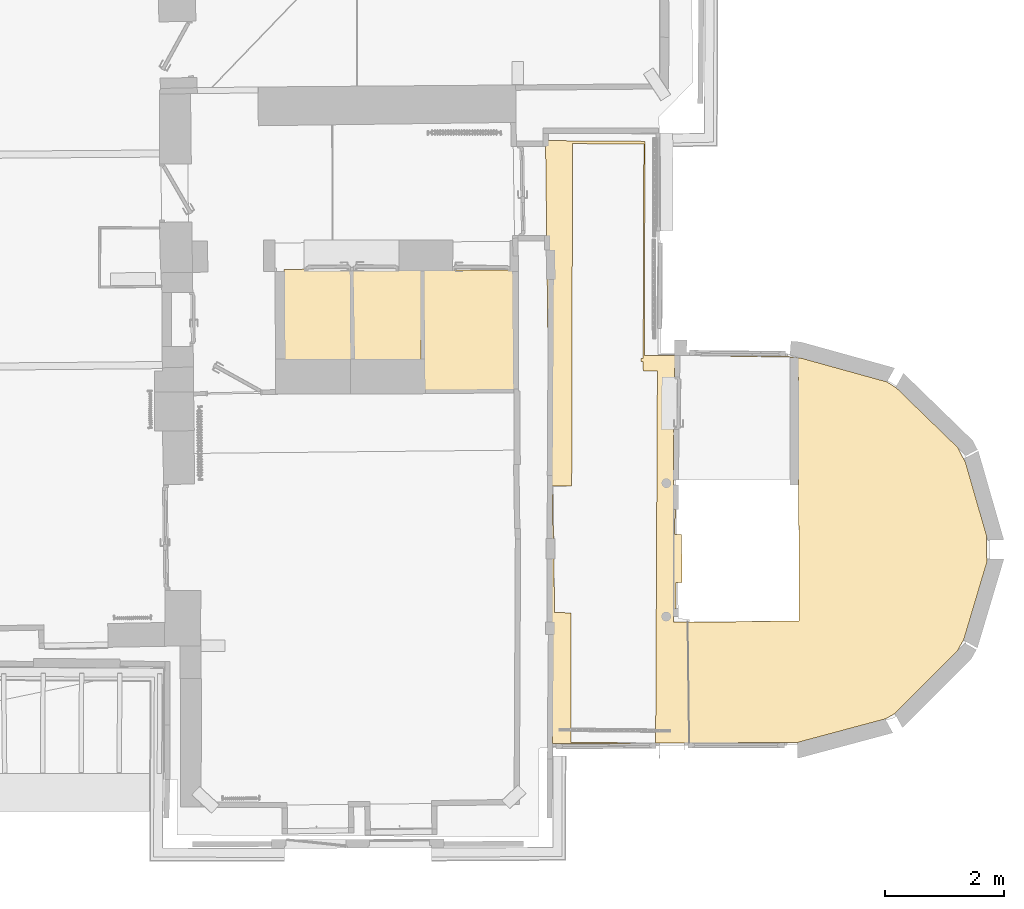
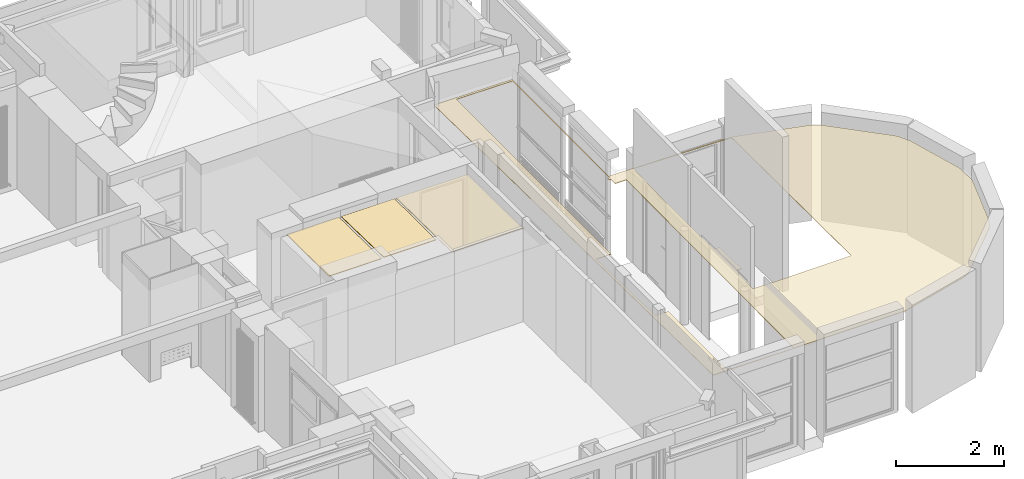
# One storey, part 69 of 72: 4 coverings.
"""IFC2X3 building model written with IfcOpenShell, lengths in centimetres."""

import ifcopenshell
import ifcopenshell.guid

model = None  # the IFC model being written
_history = None  # IfcOwnerHistory: only IFC2X3 demands one
_inside = {}  # id of a spatial element -> (the spatial element, [elements in it])
_under = {}  # id of a project, library or spatial element -> (it, [spatial elements below it])
_declared = {}  # id of a project -> (the project, [libraries it declares])
_typed = {}  # id of a type object -> (the type object, [elements of that type])
_made_of = {}  # id of a material, layer set ... -> (it, [elements and type objects made of it])


def new_model(schema):
    """Start an empty IFC model of exactly this schema.

    Asked for "IFC4X3", IfcOpenShell would pick the latest addendum, in which some entities
    have other attributes; the version numbers below select the first issue.
    IFC2X3 requires an IfcOwnerHistory on every rooted entity: one is made here for all.
    """
    global model, _history
    if schema == "IFC4X3":
        model = ifcopenshell.file(schema_version=(4, 3, 0, 0))
    else:
        model = ifcopenshell.file(schema=schema)
    _inside.clear()
    _under.clear()
    _declared.clear()
    _typed.clear()
    _made_of.clear()
    _history = None
    if model.schema == "IFC2X3":
        org = make("IfcOrganization", Name="unknown")
        user = make(
            "IfcPersonAndOrganization",
            ThePerson=make("IfcPerson", FamilyName="unknown"),
            TheOrganization=org,
        )
        app = make(
            "IfcApplication",
            ApplicationDeveloper=org,
            Version="unknown",
            ApplicationFullName="unknown",
            ApplicationIdentifier="unknown",
        )
        _history = make(
            "IfcOwnerHistory",
            OwningUser=user,
            OwningApplication=app,
            ChangeAction="ADDED",
            CreationDate=0,
        )
    return model


def make(cls, **values):
    """One entity of the class cls with the attributes given. An attribute that is None is left unset."""
    return model.create_entity(
        cls, **{name: value for name, value in values.items() if value is not None}
    )


def entity(cls, *values):
    """Any entity or typed value of the class cls, its attributes in the order of the schema. None: left unset."""
    e = model.create_entity(cls)
    for i, value in enumerate(values):
        if value is not None:
            e[i] = value
    return e


def rooted(cls, **values):
    """An entity with a GlobalId (a new one), such as an element, a storey or a relation."""
    return make(cls, GlobalId=ifcopenshell.guid.new(), OwnerHistory=_history, **values)


def si_unit(unit_type, name, prefix=None):
    """IfcSIUnit, for example si_unit("LENGTHUNIT", "METRE", prefix="MILLI")."""
    return make("IfcSIUnit", UnitType=unit_type, Prefix=prefix, Name=name)


def converted_unit(unit_type, name, factor, base, dimensions=None, offset=None):
    """IfcConversionBasedUnit, such as the inch: factor (a typed value) times the base unit."""
    return make(
        "IfcConversionBasedUnit"
        if offset is None
        else "IfcConversionBasedUnitWithOffset",
        ConversionOffset=offset,
        Dimensions=None
        if dimensions is None
        else entity("IfcDimensionalExponents", *dimensions),
        UnitType=unit_type,
        Name=name,
        ConversionFactor=make(
            "IfcMeasureWithUnit", ValueComponent=factor, UnitComponent=base
        ),
    )


def assignment(units):
    """IfcUnitAssignment: the units of a project."""
    return None if units is None else make("IfcUnitAssignment", Units=units)


def point(xyz):
    """IfcCartesianPoint."""
    return None if xyz is None else make("IfcCartesianPoint", Coordinates=xyz)


def direction(xyz):
    """IfcDirection."""
    return None if xyz is None else make("IfcDirection", DirectionRatios=xyz)


def frame(location, z_axis=None, x_axis=None):
    """IfcAxis2Placement3D, a coordinate frame: its origin and axes. An axis left out is left unset."""
    return make(
        "IfcAxis2Placement3D",
        Location=point(location),
        Axis=direction(z_axis),
        RefDirection=direction(x_axis),
    )


def origin():
    """The frame at (0, 0, 0) with its axes left unset."""
    return frame((0.0, 0.0, 0.0))


def origin_with_axes():
    """The frame at (0, 0, 0) with the z axis (0, 0, 1) and the x axis (1, 0, 0) written out."""
    return frame((0.0, 0.0, 0.0), z_axis=(0.0, 0.0, 1.0), x_axis=(1.0, 0.0, 0.0))


def place(relative_to, where):
    """IfcLocalPlacement: puts the frame where relative to a parent placement (None: the world)."""
    return make(
        "IfcLocalPlacement", PlacementRelTo=relative_to, RelativePlacement=where
    )


def context(
    kind, dimensions, precision=None, world=None, true_north=None, identifier=None
):
    """IfcGeometricRepresentationContext, for example the 3D "Model" context."""
    return make(
        "IfcGeometricRepresentationContext",
        ContextIdentifier=identifier,
        ContextType=kind,
        CoordinateSpaceDimension=dimensions,
        Precision=precision,
        WorldCoordinateSystem=world,
        TrueNorth=true_north,
    )


def subcontext(parent, identifier, kind, view, scale=None):
    """IfcGeometricRepresentationSubContext, for example "Body" below "Model"."""
    return make(
        "IfcGeometricRepresentationSubContext",
        ContextIdentifier=identifier,
        ContextType=kind,
        ParentContext=parent,
        TargetScale=scale,
        TargetView=view,
    )


def project(units=None, contexts=None):
    """IfcProject with its units and contexts."""
    return rooted(
        "IfcProject",
        Name="project",
        RepresentationContexts=contexts,
        UnitsInContext=assignment(units),
    )


def spatial(cls, under=None, at=None, **own):
    """A site, building, storey or space (cls), placed at a placement, below another one or the project."""
    s = rooted(cls, ObjectPlacement=at, **own)
    if under is not None:
        _under.setdefault(under.id(), (under, []))[1].append(s)
    return s


def faces_of(points, faces, orient=None, outer=None):
    """IfcFace entities. A face is a list of loops; a loop is a list of indices into points, from 0.

    orient and outer hold one flag for each loop. By default every Orientation is true, the
    first loop of a face is its IfcFaceOuterBound and the others are IfcFaceBound.
    """
    made = []
    for i, loops in enumerate(faces):
        bounds = []
        for j, loop in enumerate(loops):
            is_outer = j == 0 if outer is None else outer[i][j]
            bounds.append(
                make(
                    "IfcFaceOuterBound" if is_outer else "IfcFaceBound",
                    Bound=make("IfcPolyLoop", Polygon=[points[k] for k in loop]),
                    Orientation=True if orient is None else orient[i][j],
                )
            )
        made.append(make("IfcFace", Bounds=bounds))
    return made


def faceted_brep(points, faces, orient=None, outer=None, voids=None):
    """IfcFacetedBrep: a solid bounded by flat faces; with voids (closed shells), ...WithVoids."""
    shared = [point(p) for p in points]
    hull = make("IfcClosedShell", CfsFaces=faces_of(shared, faces, orient, outer))
    if voids is None:
        return make("IfcFacetedBrep", Outer=hull)
    return make(
        "IfcFacetedBrepWithVoids",
        Outer=hull,
        Voids=[
            make(cls, CfsFaces=faces_of(shared, fs, o, b)) for cls, fs, o, b in voids
        ],
    )


def shape(context_of_items, identifier, shape_type, items):
    """IfcShapeRepresentation: the items that make up one representation, for example the "Body"."""
    return make(
        "IfcShapeRepresentation",
        ContextOfItems=context_of_items,
        RepresentationIdentifier=identifier,
        RepresentationType=shape_type,
        Items=items,
    )


def material(Name=None, Category=None):
    """IfcMaterial."""
    return make("IfcMaterial", Name=Name, Category=Category)


def made_of(thing, what):
    """Note that an element or type object is made of a material, layer set ...; save() writes the relation."""
    if what is not None:
        _made_of.setdefault(what.id(), (what, []))[1].append(thing)
    return thing


def element(
    cls,
    number,
    at=None,
    inside=None,
    cuts=None,
    type_object=None,
    material=None,
    context=None,
    identifier="Body",
    shape_type=None,
    held_by="IfcProductDefinitionShape",
    body=None,
    shapes=None,
    **own,
):
    """One element of the class cls, such as IfcWall. Its Tag is "e" and its number.

    at: its placement. inside: the storey or other place that contains it. cuts: it is an
    opening in that element (IfcRelVoidsElement). A single representation is given by context,
    identifier, shape_type and body (its items); several are given by shapes. held_by: the class
    of the entity that holds the representations. save() writes the other relations.
    """
    e = rooted(cls, Tag="e%d" % number, ObjectPlacement=at, **own)
    if body is not None:
        shapes = [shape(context, identifier, shape_type, body)]
    if shapes is not None:
        e.Representation = make(held_by, Representations=shapes)
    if inside is not None:
        _inside.setdefault(inside.id(), (inside, []))[1].append(e)
    if cuts is not None:
        rooted(
            "IfcRelVoidsElement", RelatingBuildingElement=cuts, RelatedOpeningElement=e
        )
    if type_object is not None:
        _typed.setdefault(type_object.id(), (type_object, []))[1].append(e)
    return made_of(e, material)


def aggregate(whole, parts):
    """IfcRelAggregates: a whole, such as a stair, and the parts it consists of."""
    return rooted("IfcRelAggregates", RelatingObject=whole, RelatedObjects=parts)


def save(model, path):
    """Write the relations noted so far, then the file.

    IfcRelAggregates (storeys below a building ...), IfcRelContainedInSpatialStructure (elements
    in a storey), IfcRelDefinesByType, IfcRelAssociatesMaterial and IfcRelDeclares: one each for
    every whole, place, type object, material and project.
    """
    for whole, parts in _under.values():
        aggregate(whole, parts)
    for where, things in _inside.values():
        rooted(
            "IfcRelContainedInSpatialStructure",
            RelatedElements=things,
            RelatingStructure=where,
        )
    for kind, things in _typed.values():
        rooted("IfcRelDefinesByType", RelatedObjects=things, RelatingType=kind)
    for what, things in _made_of.values():
        rooted("IfcRelAssociatesMaterial", RelatedObjects=things, RelatingMaterial=what)
    for by, libraries in _declared.values():
        rooted("IfcRelDeclares", RelatingContext=by, RelatedDefinitions=libraries)
    model.write(path)


model = new_model("IFC2X3")

# Units and contexts
model_context = context("Model", 3, precision=0.0001, world=origin(), true_north=direction((0.225632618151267, 0.974212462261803, 0.0)))
body_context = subcontext(model_context, "Body", "Model", "MODEL_VIEW")
ifc_project = project(units=[si_unit("LENGTHUNIT", "METRE", prefix="CENTI"), si_unit("AREAUNIT", "SQUARE_METRE", prefix="CENTI"), si_unit("VOLUMEUNIT", "CUBIC_METRE", prefix="CENTI"), converted_unit("PLANEANGLEUNIT", "DEGREE", entity("IfcRatioMeasure", 0.0174532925), si_unit("PLANEANGLEUNIT", "RADIAN"), dimensions=[0, 0, 0, 0, 0, 0, 0])], contexts=[model_context])

# Site, building, storey
site_placement = place(None, origin_with_axes())
site = spatial("IfcSite", under=ifc_project, at=site_placement, Name="Default Site", CompositionType="ELEMENT")
building_placement = place(site_placement, origin_with_axes())
building = spatial("IfcBuilding", under=site, at=building_placement, Name="Default Building", CompositionType="ELEMENT")
storey_placement = place(building_placement, frame((0.0, 0.0, 853.910374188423), z_axis=(0.0, 0.0, 1.0), x_axis=(1.0, 0.0, 0.0)))
storey = spatial("IfcBuildingStorey", under=building, at=storey_placement, Name="Niveau 2", CompositionType="ELEMENT", Elevation=853.910374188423)

# Coverings
ifc_material = material(Name="Blanc")
covering_1_placement = place(storey_placement, frame((673.028166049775, -78.1284152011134, 208.5), z_axis=(0.0, 0.0, 1.0), x_axis=(1.0, 0.0, 0.0)))
element("IfcCovering", 1, at=covering_1_placement, inside=storey, material=ifc_material, Name="Faux-plafond 152115", PredefinedType="CEILING", context=body_context, shape_type="Brep", body=[
    faceted_brep([(-111.590559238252, -153.608483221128, 1.39997432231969), (0.544421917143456, -153.172320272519, 1.39997432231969), (1.69336229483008e-05, -1.45032252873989e-07, 1.39997432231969), (-114.04693817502, -0.405347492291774, 1.39997432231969), (-114.04693817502, -0.405347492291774, -1.95741646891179e-05), (1.69336229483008e-05, -1.45032252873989e-07, -1.95741646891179e-05), (0.544421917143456, -153.172320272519, -1.95741646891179e-05), (-111.590559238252, -153.608483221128, -1.95741646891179e-05), (0.544421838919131, -153.172300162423, -1.95741646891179e-05), (0.544421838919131, -153.172300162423, 1.39997432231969), (1.45144837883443e-05, -1.53630394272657e-07, -1.95741646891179e-05), (1.45144837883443e-05, -1.53630394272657e-07, 1.39997432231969), (-114.046938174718, -0.405347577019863, -1.95741646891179e-05), (-114.046938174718, -0.405347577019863, 1.39997432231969), (-111.590568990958, -153.608483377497, -1.95741646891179e-05), (-111.590568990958, -153.608483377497, 1.39997432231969)], [[[0, 1, 2, 3]], [[4, 5, 6, 7]], [[7, 8, 9, 0]], [[6, 10, 11, 1]], [[5, 12, 13, 2]], [[4, 14, 15, 3]]]),
])
covering_2_placement = place(storey_placement, frame((442.934560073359, -77.0907388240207, 207.5), z_axis=(0.0, 0.0, 1.0), x_axis=(1.0, 0.0, 0.0)))
element("IfcCovering", 2, at=covering_2_placement, inside=storey, material=ifc_material, Name="Faux-plafond 152116", PredefinedType="CEILING", context=body_context, shape_type="Brep", body=[
    faceted_brep([(0.831127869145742, -155.84473747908, 1.40004680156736), (113.694239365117, -155.067159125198, 1.40004680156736), (112.036944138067, 1.05601411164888, 1.40004680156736), (7.0239769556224e-07, -1.37983671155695e-06, 1.40004680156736), (7.0239769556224e-07, -1.37983671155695e-06, -4.24623486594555e-05), (112.036944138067, 1.05601411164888, -4.24623486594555e-05), (113.694239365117, -155.067159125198, -4.24623486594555e-05), (0.831127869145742, -155.84473747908, -4.24623486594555e-05), (113.694239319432, -155.067152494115, -4.24623486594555e-05), (113.694239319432, -155.067152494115, 1.40004680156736), (112.036932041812, 1.05601398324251, -4.24623486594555e-05), (112.036932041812, 1.05601398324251, 1.40004680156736), (7.1492111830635e-07, -2.70849547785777e-06, -4.24623486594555e-05), (7.1492111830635e-07, -2.70849547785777e-06, 1.40004680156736), (0.831105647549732, -155.844737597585, -4.24623486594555e-05), (0.831105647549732, -155.844737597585, 1.40004680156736)], [[[0, 1, 2, 3]], [[4, 5, 6, 7]], [[7, 8, 9, 0]], [[6, 10, 11, 1]], [[5, 12, 13, 2]], [[4, 14, 15, 3]]]),
])
covering_3_placement = place(storey_placement, frame((676.31466121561, -78.0516798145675, 209.0), z_axis=(0.0, 0.0, 1.0), x_axis=(1.0, 0.0, 0.0)))
element("IfcCovering", 3, at=covering_3_placement, inside=storey, material=ifc_material, Name="Faux-plafond 152117", PredefinedType="CEILING", context=body_context, shape_type="Brep", body=[
    faceted_brep([(2.17654972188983, -203.303820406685, 1.39998576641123), (155.512693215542, -202.423459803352, 1.39998576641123), (154.299524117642, -0.0562136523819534, 1.39998576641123), (-2.11704441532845e-05, -5.11894282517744e-07, 1.39998576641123), (-2.11704441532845e-05, -5.11894282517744e-07, -8.13007314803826e-06), (154.299524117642, -0.0562136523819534, -8.13007314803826e-06), (155.512693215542, -202.423459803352, -8.13007314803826e-06), (2.17654972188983, -203.303820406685, -8.13007314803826e-06), (155.512693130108, -202.423444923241, -8.13007314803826e-06), (155.512693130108, -202.423444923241, 1.39998576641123), (154.299488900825, -0.0562138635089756, -8.13007314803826e-06), (154.299488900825, -0.0562138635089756, 1.39998576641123), (-2.11696250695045e-05, 1.73632026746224e-06, -8.13007314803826e-06), (-2.11696250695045e-05, 1.73632026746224e-06, 1.39998576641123), (2.17652633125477, -203.303820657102, -8.13007314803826e-06), (2.17652633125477, -203.303820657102, 1.39998576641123)], [[[0, 1, 2, 3]], [[4, 5, 6, 7]], [[7, 8, 9, 0]], [[6, 10, 11, 1]], [[5, 12, 13, 2]], [[4, 14, 15, 3]]]),
])
covering_4_placement = place(storey_placement, frame((882.630722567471, 139.41985003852, 215.0), z_axis=(0.0, 0.0, 1.0), x_axis=(1.0, 0.0, 0.0)))
element("IfcCovering", 4, at=covering_4_placement, inside=storey, material=ifc_material, Name="Faux-plafond 564891", PredefinedType="CEILING", context=body_context, shape_type="Brep", body=[
    faceted_brep([(12.0212626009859, -1013.63049380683, 1.40002772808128), (423.485095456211, -1011.61299579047, 1.40002772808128), (570.876605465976, -972.094353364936, 1.40002772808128), (587.059981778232, -963.199337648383, 1.40002772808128), (692.186458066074, -857.68042437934, 1.40002772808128), (703.096492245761, -838.406428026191, 1.40002772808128), (741.694838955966, -708.982142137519, 1.40002772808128), (741.205985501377, -663.725050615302, 1.40002772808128), (706.01969476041, -541.407927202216, 1.40002772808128), (692.694957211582, -515.768011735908, 1.40002772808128), (590.160663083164, -416.137322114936, 1.40002772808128), (573.87858147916, -405.594810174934, 1.40002772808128), (431.159408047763, -366.067823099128, 1.40002772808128), (406.615931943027, -362.848027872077, 1.40002772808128), (166.047007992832, -360.980328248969, 1.40002772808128), (167.210395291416, -1.12357966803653, 1.40002772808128), (7.10782188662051e-06, 3.64876644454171e-06, 1.40002772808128), (424.671943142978, -366.558369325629, 1.40002772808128), (426.155669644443, -807.194098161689, 1.40002772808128), (270.668227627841, -809.431656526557, 1.40002772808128), (214.779288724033, -808.799847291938, 1.40002772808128), (214.695556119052, -792.816408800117, 1.40002772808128), (217.942531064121, -792.671354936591, 1.40002772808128), (217.848784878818, -786.702688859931, 1.40002772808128), (219.45210213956, -786.688955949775, 1.40002772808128), (219.27538628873, -742.75966517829, 1.40002772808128), (229.411704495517, -742.478521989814, 1.40002772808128), (228.649909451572, -662.378414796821, 1.40002772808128), (217.868525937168, -662.444409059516, 1.40002772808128), (218.126494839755, -619.740017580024, 1.40002772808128), (216.117675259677, -619.727333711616, 1.40002772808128), (216.062838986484, -613.385828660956, 1.40002772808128), (215.127189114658, -613.03292148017, 1.40002772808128), (215.522963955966, -490.776618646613, 1.40002772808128), (214.846332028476, -489.490255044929, 1.40002772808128), (217.616565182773, -362.312635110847, 1.40002772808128), (43.140418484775, -1011.27491824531, 1.40002772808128), (42.9309916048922, -794.070967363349, 1.40002772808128), (15.3322290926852, -792.757233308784, 1.40002772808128), (11.8973803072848, -580.840738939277, 1.40002772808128), (44.0117907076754, -580.918368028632, 1.40002772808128), (45.4035830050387, -5.14400832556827, 1.40002772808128), (165.195281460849, -5.80246083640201, 1.40002772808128), (164.031321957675, -365.84692828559, 1.40002772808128), (160.253722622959, -365.922554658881, 1.40002772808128), (160.128314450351, -371.461185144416, 1.40002772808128), (163.847644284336, -371.545418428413, 1.40002772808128), (164.320094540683, -387.081011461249, 1.40002772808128), (187.965400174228, -387.044390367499, 1.40002772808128), (185.038859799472, -1012.78210513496, 1.40002772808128), (7.10782188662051e-06, 3.64876644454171e-06, 3.38315969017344e-05), (167.210395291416, -1.12357966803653, 3.38315969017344e-05), (166.047007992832, -360.980328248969, 3.38315969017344e-05), (406.615931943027, -362.848027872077, 3.38315969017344e-05), (431.159408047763, -366.067823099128, 3.38315969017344e-05), (573.87858147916, -405.594810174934, 3.38315969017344e-05), (590.160663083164, -416.137322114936, 3.38315969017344e-05), (692.694957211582, -515.768011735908, 3.38315969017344e-05), (706.01969476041, -541.407927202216, 3.38315969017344e-05), (741.205985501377, -663.725050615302, 3.38315969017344e-05), (741.694838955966, -708.982142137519, 3.38315969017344e-05), (703.096492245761, -838.406428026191, 3.38315969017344e-05), (692.186458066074, -857.68042437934, 3.38315969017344e-05), (587.059981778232, -963.199337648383, 3.38315969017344e-05), (570.876605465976, -972.094353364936, 3.38315969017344e-05), (423.485095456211, -1011.61299579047, 3.38315969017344e-05), (12.0212626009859, -1013.63049380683, 3.38315969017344e-05), (217.616565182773, -362.312635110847, 3.38315969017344e-05), (214.846332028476, -489.490255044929, 3.38315969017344e-05), (215.522963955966, -490.776618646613, 3.38315969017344e-05), (215.127189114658, -613.03292148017, 3.38315969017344e-05), (216.062838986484, -613.385828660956, 3.38315969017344e-05), (216.117675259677, -619.727333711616, 3.38315969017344e-05), (218.126494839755, -619.740017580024, 3.38315969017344e-05), (217.868525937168, -662.444409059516, 3.38315969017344e-05), (228.649909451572, -662.378414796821, 3.38315969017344e-05), (229.411704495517, -742.478521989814, 3.38315969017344e-05), (219.27538628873, -742.75966517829, 3.38315969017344e-05), (219.45210213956, -786.688955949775, 3.38315969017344e-05), (217.848784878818, -786.702688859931, 3.38315969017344e-05), (217.942531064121, -792.671354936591, 3.38315969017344e-05), (214.695556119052, -792.816408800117, 3.38315969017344e-05), (214.779288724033, -808.799847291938, 3.38315969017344e-05), (270.668227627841, -809.431656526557, 3.38315969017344e-05), (426.155669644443, -807.194098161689, 3.38315969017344e-05), (424.671943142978, -366.558369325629, 3.38315969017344e-05), (185.038859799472, -1012.78210513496, 3.38315969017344e-05), (187.965400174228, -387.044390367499, 3.38315969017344e-05), (164.320094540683, -387.081011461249, 3.38315969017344e-05), (163.847644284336, -371.545418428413, 3.38315969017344e-05), (160.128314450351, -371.461185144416, 3.38315969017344e-05), (160.253722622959, -365.922554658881, 3.38315969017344e-05), (164.031321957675, -365.84692828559, 3.38315969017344e-05), (165.195281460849, -5.80246083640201, 3.38315969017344e-05), (45.4035830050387, -5.14400832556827, 3.38315969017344e-05), (44.0117907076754, -580.918368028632, 3.38315969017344e-05), (11.8973803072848, -580.840738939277, 3.38315969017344e-05), (15.3322290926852, -792.757233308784, 3.38315969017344e-05), (42.9309916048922, -794.070967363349, 3.38315969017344e-05), (43.140418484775, -1011.27491824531, 3.38315969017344e-05), (423.485095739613, -1011.61305359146, 3.38315969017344e-05), (423.485095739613, -1011.61305359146, 1.40002772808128), (570.876594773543, -972.094313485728, 3.38315969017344e-05), (570.876594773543, -972.094313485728, 1.40002772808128), (587.059977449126, -963.199329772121, 3.38315969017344e-05), (587.059977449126, -963.199329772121, 1.40002772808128), (692.186440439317, -857.680406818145, 3.38315969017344e-05), (692.186440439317, -857.680406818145, 1.40002772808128), (703.096499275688, -838.40643200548, 3.38315969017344e-05), (703.096499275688, -838.40643200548, 1.40002772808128), (741.694880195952, -708.982154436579, 3.38315969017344e-05), (741.694880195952, -708.982154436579, 1.40002772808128), (741.205904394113, -663.725051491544, 3.38315969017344e-05), (741.205904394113, -663.725051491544, 1.40002772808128), (706.01971924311, -541.407920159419, 3.38315969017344e-05), (706.01971924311, -541.407920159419, 1.40002772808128), (692.69500436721, -515.767987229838, 3.38315969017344e-05), (692.69500436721, -515.767987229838, 1.40002772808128), (590.160662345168, -416.13732287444, 3.38315969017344e-05), (590.160662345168, -416.13732287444, 1.40002772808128), (573.87856641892, -405.594833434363, 3.38315969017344e-05), (573.87856641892, -405.594833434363, 1.40002772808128), (431.159409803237, -366.067816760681, 3.38315969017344e-05), (431.159409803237, -366.067816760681, 1.40002772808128), (406.615931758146, -362.848029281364, 3.38315969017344e-05), (406.615931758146, -362.848029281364, 1.40002772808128), (166.047008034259, -360.980322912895, 3.38315969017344e-05), (166.047008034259, -360.980322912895, 1.40002772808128), (167.210418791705, -1.12357974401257, 3.38315969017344e-05), (167.210418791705, -1.12357974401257, 1.40002772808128), (7.11367749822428e-06, 4.52019121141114e-06, 3.38315969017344e-05), (7.11367749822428e-06, 4.52019121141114e-06, 1.40002772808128), (12.0212943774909, -1013.63049342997, 3.38315969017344e-05), (12.0212943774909, -1013.63049342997, 1.40002772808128), (214.84628673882, -489.490254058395, 1.40002772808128), (214.84628673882, -489.490254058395, 3.38315969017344e-05), (215.522990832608, -490.776604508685, 1.40002772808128), (215.522990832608, -490.776604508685, 3.38315969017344e-05), (215.127201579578, -613.032921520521, 1.40002772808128), (215.127201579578, -613.032921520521, 3.38315969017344e-05), (216.062827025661, -613.385860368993, 1.40002772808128), (216.062827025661, -613.385860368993, 3.38315969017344e-05), (216.11761253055, -619.727334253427, 1.40002772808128), (216.11761253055, -619.727334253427, 3.38315969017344e-05), (218.126495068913, -619.739981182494, 1.40002772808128), (218.126495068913, -619.739981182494, 3.38315969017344e-05), (217.868513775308, -662.444408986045, 1.40002772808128), (217.868513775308, -662.444408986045, 3.38315969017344e-05), (228.649909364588, -662.378400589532, 1.40002772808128), (228.649909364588, -662.378400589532, 3.38315969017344e-05), (229.411731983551, -742.478521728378, 1.40002772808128), (229.411731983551, -742.478521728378, 3.38315969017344e-05), (219.275386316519, -742.759666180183, 1.40002772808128), (219.275386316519, -742.759666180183, 3.38315969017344e-05), (219.452083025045, -786.688956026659, 1.40002772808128), (219.452083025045, -786.688956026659, 3.38315969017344e-05), (217.848784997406, -786.702702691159, 1.40002772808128), (217.848784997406, -786.702702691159, 3.38315969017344e-05), (217.942545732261, -792.671354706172, 1.40002772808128), (217.942545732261, -792.671354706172, 3.38315969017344e-05), (214.695556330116, -792.816413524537, 1.40002772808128), (214.695556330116, -792.816413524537, 3.38315969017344e-05), (214.779289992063, -808.799847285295, 1.40002772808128), (214.779289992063, -808.799847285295, 3.38315969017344e-05), (270.668227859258, -809.431636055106, 1.40002772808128), (270.668227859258, -809.431636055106, 3.38315969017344e-05), (426.155670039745, -807.194125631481, 1.40002772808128), (426.155670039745, -807.194125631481, 3.38315969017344e-05), (424.671948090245, -366.558369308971, 1.40002772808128), (424.671948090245, -366.558369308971, 3.38315969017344e-05), (217.616564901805, -362.312648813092, 1.40002772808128), (217.616564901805, -362.312648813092, 3.38315969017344e-05), (187.965402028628, -387.044390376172, 1.40002772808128), (187.965402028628, -387.044390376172, 3.38315969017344e-05), (164.320094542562, -387.081012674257, 1.40002772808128), (164.320094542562, -387.081012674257, 3.38315969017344e-05), (163.847641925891, -371.545418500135, 1.40002772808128), (163.847641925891, -371.545418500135, 3.38315969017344e-05), (160.128314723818, -371.461173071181, 1.40002772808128), (160.128314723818, -371.461173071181, 3.38315969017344e-05), (160.253768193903, -365.922555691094, 1.40002772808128), (160.253768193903, -365.922555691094, 3.38315969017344e-05), (164.03132192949, -365.846926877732, 1.40002772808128), (164.03132192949, -365.846926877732, 3.38315969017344e-05), (165.195339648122, -5.80246102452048, 1.40002772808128), (165.195339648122, -5.80246102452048, 3.38315969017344e-05), (45.40358300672, -5.1440080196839, 1.40002772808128), (45.40358300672, -5.1440080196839, 3.38315969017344e-05), (44.0117625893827, -580.918367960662, 1.40002772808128), (44.0117625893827, -580.918367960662, 3.38315969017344e-05), (11.8973803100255, -580.840737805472, 1.40002772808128), (11.8973803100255, -580.840737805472, 3.38315969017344e-05), (15.332204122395, -792.757233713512, 1.40002772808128), (15.332204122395, -792.757233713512, 3.38315969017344e-05), (42.930991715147, -794.070965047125, 1.40002772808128), (42.930991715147, -794.070965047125, 3.38315969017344e-05), (43.1404919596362, -1011.27491817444, 1.40002772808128), (43.1404919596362, -1011.27491817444, 3.38315969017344e-05), (185.038859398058, -1012.78214292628, 1.40002772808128), (185.038859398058, -1012.78214292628, 3.38315969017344e-05)], [[[0, 1, 2, 3, 4, 5, 6, 7, 8, 9, 10, 11, 12, 13, 14, 15, 16], [17, 18, 19, 20, 21, 22, 23, 24, 25, 26, 27, 28, 29, 30, 31, 32, 33, 34, 35], [36, 37, 38, 39, 40, 41, 42, 43, 44, 45, 46, 47, 48, 49]], [[50, 51, 52, 53, 54, 55, 56, 57, 58, 59, 60, 61, 62, 63, 64, 65, 66], [67, 68, 69, 70, 71, 72, 73, 74, 75, 76, 77, 78, 79, 80, 81, 82, 83, 84, 85], [86, 87, 88, 89, 90, 91, 92, 93, 94, 95, 96, 97, 98, 99]], [[66, 100, 101, 0]], [[65, 102, 103, 1]], [[64, 104, 105, 2]], [[63, 106, 107, 3]], [[62, 108, 109, 4]], [[61, 110, 111, 5]], [[60, 112, 113, 6]], [[59, 114, 115, 7]], [[58, 116, 117, 8]], [[57, 118, 119, 9]], [[56, 120, 121, 10]], [[55, 122, 123, 11]], [[54, 124, 125, 12]], [[53, 126, 127, 13]], [[52, 128, 129, 14]], [[51, 130, 131, 15]], [[50, 132, 133, 16]], [[35, 134, 135, 67]], [[34, 136, 137, 68]], [[33, 138, 139, 69]], [[32, 140, 141, 70]], [[31, 142, 143, 71]], [[30, 144, 145, 72]], [[29, 146, 147, 73]], [[28, 148, 149, 74]], [[27, 150, 151, 75]], [[26, 152, 153, 76]], [[25, 154, 155, 77]], [[24, 156, 157, 78]], [[23, 158, 159, 79]], [[22, 160, 161, 80]], [[21, 162, 163, 81]], [[20, 164, 165, 82]], [[19, 166, 167, 83]], [[18, 168, 169, 84]], [[17, 170, 171, 85]], [[49, 172, 173, 86]], [[48, 174, 175, 87]], [[47, 176, 177, 88]], [[46, 178, 179, 89]], [[45, 180, 181, 90]], [[44, 182, 183, 91]], [[43, 184, 185, 92]], [[42, 186, 187, 93]], [[41, 188, 189, 94]], [[40, 190, 191, 95]], [[39, 192, 193, 96]], [[38, 194, 195, 97]], [[37, 196, 197, 98]], [[36, 198, 199, 99]]]),
])

save(model, "model.ifc")
